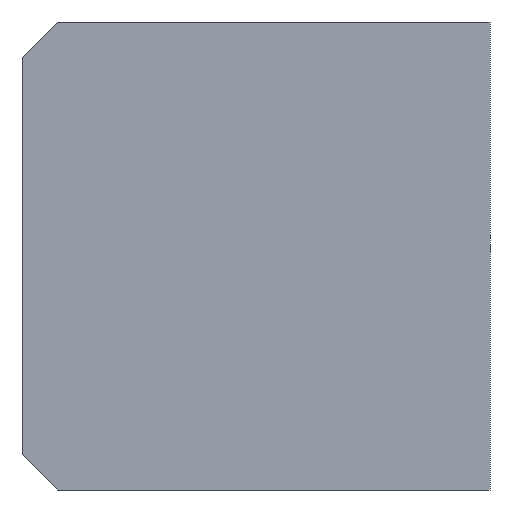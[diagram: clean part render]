
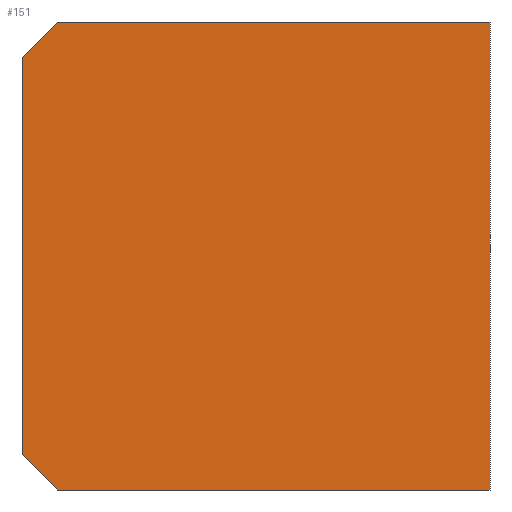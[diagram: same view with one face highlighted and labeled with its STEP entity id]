
A CAD part, front view. The second image highlights one B-rep face of the part: STEP entity #151.
In plain terms, the highlighted planar face has unit normal (0, -1, 0).
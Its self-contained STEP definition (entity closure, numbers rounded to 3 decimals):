
#1 = LINE ( 'NONE', #180, #132 ) ;
#7 = AXIS2_PLACEMENT_3D ( 'NONE', #229, #210, #127 ) ;
#8 = LINE ( 'NONE', #47, #68 ) ;
#9 = CARTESIAN_POINT ( 'NONE',  ( 0., 0., 3.7 ) ) ;
#14 = DIRECTION ( 'NONE',  ( 0.707, 0., -0.707 ) ) ;
#24 = VECTOR ( 'NONE', #14, 1000. ) ;
#30 = LINE ( 'NONE', #181, #107 ) ;
#44 = EDGE_CURVE ( 'NONE', #199, #166, #8, .T. ) ;
#47 = CARTESIAN_POINT ( 'NONE',  ( 0., 0., 4. ) ) ;
#50 = ORIENTED_EDGE ( 'NONE', *, *, #44, .F. ) ;
#55 = DIRECTION ( 'NONE',  ( -0.707, 0., -0.707 ) ) ;
#60 = CARTESIAN_POINT ( 'NONE',  ( 0.3, 0., 4. ) ) ;
#65 = ORIENTED_EDGE ( 'NONE', *, *, #238, .F. ) ;
#68 = VECTOR ( 'NONE', #221, 1000. ) ;
#74 = CARTESIAN_POINT ( 'NONE',  ( 4., 0., 4. ) ) ;
#75 = ORIENTED_EDGE ( 'NONE', *, *, #186, .T. ) ;
#84 = EDGE_LOOP ( 'NONE', ( #102, #75, #217, #65, #50, #142 ) ) ;
#86 = VERTEX_POINT ( 'NONE', #9 ) ;
#87 = LINE ( 'NONE', #231, #183 ) ;
#94 = LINE ( 'NONE', #74, #216 ) ;
#98 = EDGE_CURVE ( 'NONE', #86, #187, #30, .T. ) ;
#102 = ORIENTED_EDGE ( 'NONE', *, *, #98, .T. ) ;
#103 = FACE_OUTER_BOUND ( 'NONE', #84, .T. ) ;
#106 = DIRECTION ( 'NONE',  ( 1., 0., 0. ) ) ;
#107 = VECTOR ( 'NONE', #119, 1000. ) ;
#119 = DIRECTION ( 'NONE',  ( 0., 0., -1. ) ) ;
#127 = DIRECTION ( 'NONE',  ( 0., 0., 1. ) ) ;
#129 = CARTESIAN_POINT ( 'NONE',  ( 4., 0., 4. ) ) ;
#132 = VECTOR ( 'NONE', #55, 1000. ) ;
#142 = ORIENTED_EDGE ( 'NONE', *, *, #219, .T. ) ;
#149 = CARTESIAN_POINT ( 'NONE',  ( 0., 0., 0.3 ) ) ;
#151 = ADVANCED_FACE ( 'NONE', ( #103 ), #233, .F. ) ;
#160 = DIRECTION ( 'NONE',  ( 0., 0., -1. ) ) ;
#165 = VERTEX_POINT ( 'NONE', #228 ) ;
#166 = VERTEX_POINT ( 'NONE', #129 ) ;
#167 = EDGE_CURVE ( 'NONE', #246, #165, #87, .T. ) ;
#174 = LINE ( 'NONE', #252, #24 ) ;
#180 = CARTESIAN_POINT ( 'NONE',  ( 0.3, 0., 4. ) ) ;
#181 = CARTESIAN_POINT ( 'NONE',  ( 0., 0., 4. ) ) ;
#183 = VECTOR ( 'NONE', #106, 1000. ) ;
#186 = EDGE_CURVE ( 'NONE', #187, #246, #174, .T. ) ;
#187 = VERTEX_POINT ( 'NONE', #149 ) ;
#199 = VERTEX_POINT ( 'NONE', #60 ) ;
#210 = DIRECTION ( 'NONE',  ( 0., 1., 0. ) ) ;
#216 = VECTOR ( 'NONE', #160, 1000. ) ;
#217 = ORIENTED_EDGE ( 'NONE', *, *, #167, .T. ) ;
#219 = EDGE_CURVE ( 'NONE', #199, #86, #1, .T. ) ;
#221 = DIRECTION ( 'NONE',  ( 1., 0., 0. ) ) ;
#228 = CARTESIAN_POINT ( 'NONE',  ( 4., 0., 0. ) ) ;
#229 = CARTESIAN_POINT ( 'NONE',  ( 0., 0., 4. ) ) ;
#231 = CARTESIAN_POINT ( 'NONE',  ( 0., 0., 0. ) ) ;
#233 = PLANE ( 'NONE',  #7 ) ;
#238 = EDGE_CURVE ( 'NONE', #166, #165, #94, .T. ) ;
#240 = CARTESIAN_POINT ( 'NONE',  ( 0.3, 0., 0. ) ) ;
#246 = VERTEX_POINT ( 'NONE', #240 ) ;
#252 = CARTESIAN_POINT ( 'NONE',  ( 0., 0., 0.3 ) ) ;
